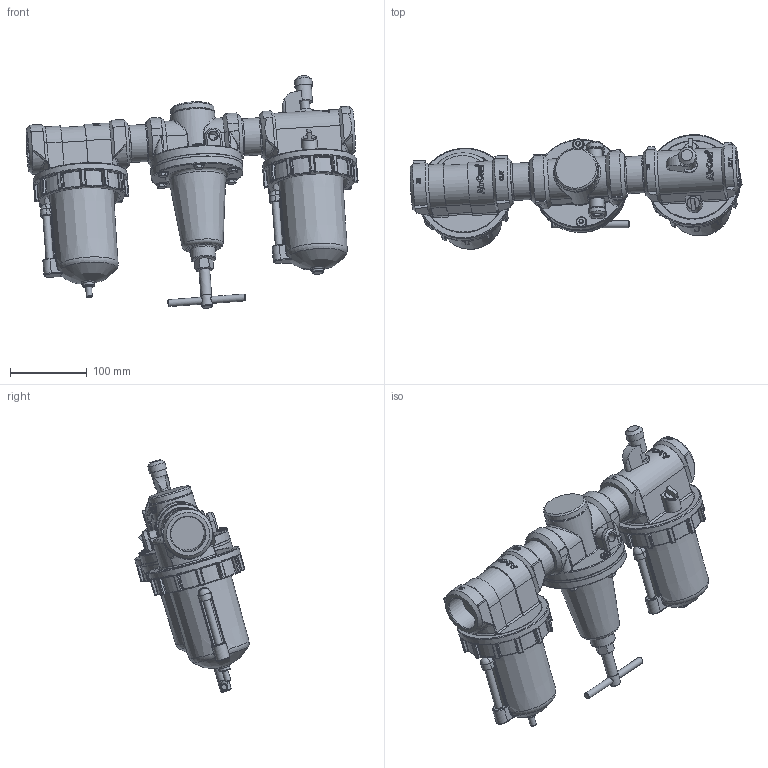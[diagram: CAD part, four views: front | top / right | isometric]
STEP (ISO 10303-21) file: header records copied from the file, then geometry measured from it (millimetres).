
FILE_DESCRIPTION((''),'2;1');
FILE_NAME('U:\AirCom-Produktdokumentation\Wartungseinheiten\C630\Zeichnungen\CAD-Aircom\3D\B-C630-12FRL-W.stp','2013-10-16T16:31:10',('Frank Schroers'),(''),'Autodesk Inventor 2008','Autodesk Inventor 2008','');
FILE_SCHEMA(('AUTOMOTIVE_DESIGN { 1 0 10303 214 1 1 1 1 }'));
Length unit declared in the file: millimetre
Products named in the file (13): Baugruppe3; B-F602-12W; B-SA600Y-71-Verschluss; B-R119-12x; B-R119-12-Unterteil; B-R119-12-Dichtung; B-R119-12-Haube; B-R119-12-Knebel; DIN EN 24014 M6 x 30; DIN EN 28674 M14 x 1,5; B-L606-12W; Gewinderohr-11-2
Assembly tree (18 placements, depth 3):
  Baugruppe3
    B-F602-12W
      B-F602-12W
      B-SA600Y-71-Verschluss
    B-R119-12x
      B-R119-12-Unterteil
      B-R119-12-Dichtung
      B-R119-12-Haube
      B-R119-12-Knebel
      DIN EN 24014 M6 x 30  x6
      DIN EN 28674 M14 x 1,5
    B-L606-12W
    Gewinderohr-11-2  x2
Bounding box: 433.71 x 149.46 x 303.74 mm (x, y, z)
Volume: 3535452.4 mm3; surface area: 405100 mm2
Topology: 17 solids, 20 shells, 1843 faces, 4423 edges, 2559 vertices
Faces by surface type: plane 567, cylinder 507, bspline 459, torus 160, cone 100, sphere 50
Full cylindrical faces by diameter (mm): 2.951 x1, 3 x2, 3.32 x1, 3.8 x2, 6 x12, 6.5 x6, 7 x6, 7.319 x1, 7.792 x1, 8.5 x2, 8.88 x6, 9 x2, 9.303 x1, 11.45 x1, 11.5 x2, 12 x2, 13 x1, 14 x3, 14.3 x1, 15 x2, 16 x2, 20 x1, 23 x1, 32.3 x1, 41.3 x2, 44 x2, 45 x2, 45.009 x2, 46 x6, 48.5 x2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
Entity records: 108779 total; most frequent: CARTESIAN_POINT 71656, ORIENTED_EDGE 7764, DIRECTION 7250, EDGE_CURVE 3882, AXIS2_PLACEMENT_3D 2972, VERTEX_POINT 2386, EDGE_LOOP 1996, FACE_OUTER_BOUND 1736
